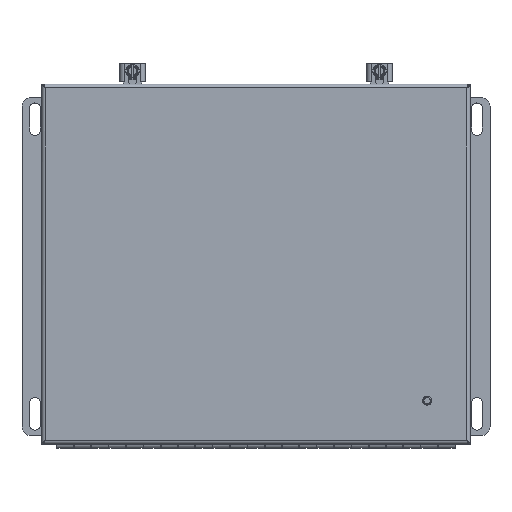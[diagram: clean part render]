
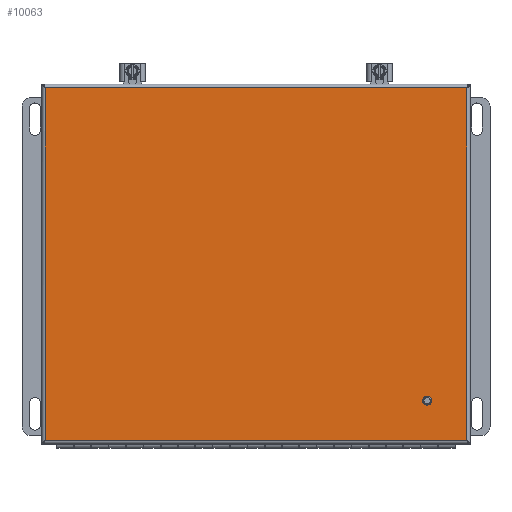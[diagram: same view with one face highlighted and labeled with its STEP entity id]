
A CAD part, top view. The second image highlights one B-rep face of the part: STEP entity #10063.
In plain terms, the highlighted planar face has unit normal (0, 0, 1) as drawn and (0, 0, -1) by its records, which use the part's own axes.
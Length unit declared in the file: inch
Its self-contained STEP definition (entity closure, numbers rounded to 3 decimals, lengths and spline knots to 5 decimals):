
#8640=DIRECTION('',(0.,-1.,0.));
#8641=VECTOR('',#8640,10.161);
#8642=CARTESIAN_POINT('',(12.263,-0.01211,0.));
#8643=LINE('',#8642,#8641);
#8675=CARTESIAN_POINT('',(1.25,-9.03511,0.));
#8676=DIRECTION('',(0.,0.,-1.));
#8677=DIRECTION('',(0.,-1.,0.));
#8678=AXIS2_PLACEMENT_3D('',#8675,#8676,#8677);
#8683=CARTESIAN_POINT('',(1.25,-9.03511,0.));
#8684=DIRECTION('',(0.,0.,-1.));
#8685=DIRECTION('',(0.,1.,0.));
#8686=AXIS2_PLACEMENT_3D('',#8683,#8684,#8685);
#8907=DIRECTION('',(1.,0.,0.));
#8908=VECTOR('',#8907,12.151);
#8909=CARTESIAN_POINT('',(0.112,-10.17311,0.));
#8910=LINE('',#8909,#8908);
#8963=DIRECTION('',(0.,-1.,0.));
#8964=VECTOR('',#8963,10.161);
#8965=CARTESIAN_POINT('',(0.112,-0.01211,0.));
#8966=LINE('',#8965,#8964);
#9084=DIRECTION('',(1.,0.,0.));
#9085=VECTOR('',#9084,12.151);
#9086=CARTESIAN_POINT('',(0.112,-0.01211,0.));
#9087=LINE('',#9086,#9085);
#9408=CARTESIAN_POINT('',(0.112,-0.01211,0.));
#9409=CARTESIAN_POINT('',(12.263,-0.01211,0.));
#9410=VERTEX_POINT('',#9408);
#9411=VERTEX_POINT('',#9409);
#9424=CARTESIAN_POINT('',(0.112,-10.17311,0.));
#9425=CARTESIAN_POINT('',(12.263,-10.17311,0.));
#9426=VERTEX_POINT('',#9424);
#9427=VERTEX_POINT('',#9425);
#9436=CARTESIAN_POINT('',(1.25,-9.13316,0.));
#9437=CARTESIAN_POINT('',(1.25,-8.93706,0.));
#9438=VERTEX_POINT('',#9436);
#9439=VERTEX_POINT('',#9437);
#10043=CARTESIAN_POINT('',(0.,0.09989,0.));
#10044=DIRECTION('',(0.,0.,-1.));
#10045=DIRECTION('',(1.,0.,0.));
#10046=AXIS2_PLACEMENT_3D('',#10043,#10044,#10045);
#10047=PLANE('',#10046);
#10048=ORIENTED_EDGE('',*,*,#10033,.F.);
#10050=ORIENTED_EDGE('',*,*,#10049,.F.);
#10052=ORIENTED_EDGE('',*,*,#10051,.T.);
#10054=ORIENTED_EDGE('',*,*,#10053,.T.);
#10055=EDGE_LOOP('',(#10048,#10050,#10052,#10054));
#10056=FACE_OUTER_BOUND('',#10055,.F.);
#10058=ORIENTED_EDGE('',*,*,#10057,.T.);
#10060=ORIENTED_EDGE('',*,*,#10059,.T.);
#10061=EDGE_LOOP('',(#10058,#10060));
#10062=FACE_BOUND('',#10061,.F.);
#8679=CIRCLE('',#8678,0.09805);
#8687=CIRCLE('',#8686,0.09805);
#10033=EDGE_CURVE('',#9411,#9427,#8643,.T.);
#10049=EDGE_CURVE('',#9410,#9411,#9087,.T.);
#10051=EDGE_CURVE('',#9410,#9426,#8966,.T.);
#10053=EDGE_CURVE('',#9426,#9427,#8910,.T.);
#10057=EDGE_CURVE('',#9438,#9439,#8679,.T.);
#10059=EDGE_CURVE('',#9439,#9438,#8687,.T.);
#10063=ADVANCED_FACE('',(#10056,#10062),#10047,.T.);
